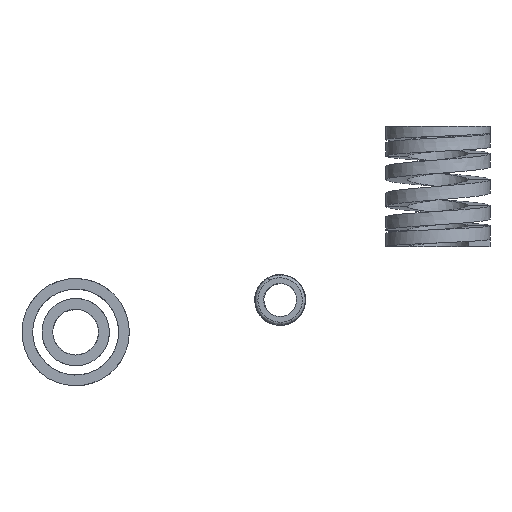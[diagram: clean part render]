
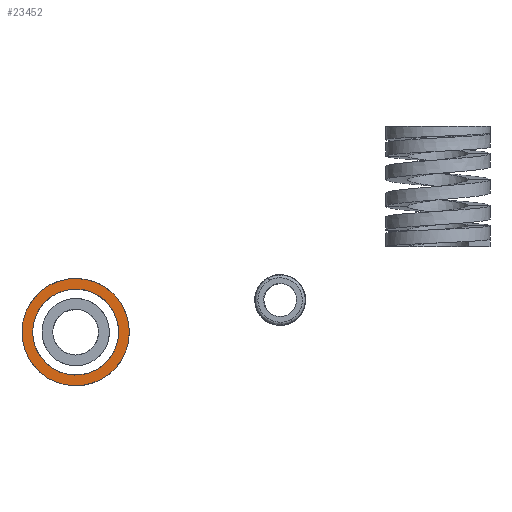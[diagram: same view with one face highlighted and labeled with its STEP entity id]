
A CAD part, left-side view. The second image highlights one B-rep face of the part: STEP entity #23452.
In plain terms, the highlighted planar face has unit normal (-1, 0, 0).
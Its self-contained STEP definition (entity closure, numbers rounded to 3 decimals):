
#2472 = CARTESIAN_POINT ( 'NONE',  ( -30., 84.206, -137.893 ) ) ;
#2550 = CARTESIAN_POINT ( 'NONE',  ( -30., 86.683, -139.246 ) ) ;
#2551 = CARTESIAN_POINT ( 'NONE',  ( -30., 88.759, -141.227 ) ) ;
#2552 = CARTESIAN_POINT ( 'NONE',  ( -30., 90.227, -143.637 ) ) ;
#2553 = CARTESIAN_POINT ( 'NONE',  ( -30., 91.695, -146.046 ) ) ;
#2554 = CARTESIAN_POINT ( 'NONE',  ( -30., 92.503, -148.8 ) ) ;
#2555 = CARTESIAN_POINT ( 'NONE',  ( -30., 92.57, -151.621 ) ) ;
#2556 = CARTESIAN_POINT ( 'NONE',  ( -30., 92.637, -154.442 ) ) ;
#2557 = CARTESIAN_POINT ( 'NONE',  ( -30., 91.959, -157.23 ) ) ;
#2558 = CARTESIAN_POINT ( 'NONE',  ( -30., 90.607, -159.706 ) ) ;
#2559 = CARTESIAN_POINT ( 'NONE',  ( -30., 89.254, -162.183 ) ) ;
#2560 = CARTESIAN_POINT ( 'NONE',  ( -30., 87.273, -164.259 ) ) ;
#2561 = CARTESIAN_POINT ( 'NONE',  ( -30., 84.863, -165.727 ) ) ;
#2562 = CARTESIAN_POINT ( 'NONE',  ( -30., 82.454, -167.195 ) ) ;
#2563 = CARTESIAN_POINT ( 'NONE',  ( -30., 79.7, -168.003 ) ) ;
#2564 = CARTESIAN_POINT ( 'NONE',  ( -30., 76.879, -168.07 ) ) ;
#2565 = CARTESIAN_POINT ( 'NONE',  ( -30., 74.058, -168.137 ) ) ;
#2566 = CARTESIAN_POINT ( 'NONE',  ( -30., 71.27, -167.459 ) ) ;
#2567 = CARTESIAN_POINT ( 'NONE',  ( -30., 68.794, -166.107 ) ) ;
#2568 = CARTESIAN_POINT ( 'NONE',  ( -30., 68.794, -166.107 ) ) ;
#2587 = CARTESIAN_POINT ( 'NONE',  ( -30., 86.124, -134.383 ) ) ;
#2591 = CARTESIAN_POINT ( 'NONE',  ( -30., 66.317, -164.754 ) ) ;
#2592 = CARTESIAN_POINT ( 'NONE',  ( -30., 64.241, -162.773 ) ) ;
#2593 = CARTESIAN_POINT ( 'NONE',  ( -30., 62.773, -160.363 ) ) ;
#2594 = CARTESIAN_POINT ( 'NONE',  ( -30., 61.305, -157.954 ) ) ;
#2595 = CARTESIAN_POINT ( 'NONE',  ( -30., 60.497, -155.2 ) ) ;
#2596 = CARTESIAN_POINT ( 'NONE',  ( -30., 60.43, -152.379 ) ) ;
#2597 = CARTESIAN_POINT ( 'NONE',  ( -30., 60.363, -149.558 ) ) ;
#2598 = CARTESIAN_POINT ( 'NONE',  ( -30., 61.041, -146.77 ) ) ;
#2599 = CARTESIAN_POINT ( 'NONE',  ( -30., 62.393, -144.294 ) ) ;
#2600 = CARTESIAN_POINT ( 'NONE',  ( -30., 63.746, -141.817 ) ) ;
#2601 = CARTESIAN_POINT ( 'NONE',  ( -30., 65.727, -139.741 ) ) ;
#2602 = CARTESIAN_POINT ( 'NONE',  ( -30., 68.137, -138.273 ) ) ;
#2603 = CARTESIAN_POINT ( 'NONE',  ( -30., 70.546, -136.805 ) ) ;
#2604 = CARTESIAN_POINT ( 'NONE',  ( -30., 73.3, -135.997 ) ) ;
#2605 = CARTESIAN_POINT ( 'NONE',  ( -30., 76.121, -135.93 ) ) ;
#2606 = CARTESIAN_POINT ( 'NONE',  ( -30., 78.942, -135.863 ) ) ;
#2607 = CARTESIAN_POINT ( 'NONE',  ( -30., 81.73, -136.541 ) ) ;
#2608 = CARTESIAN_POINT ( 'NONE',  ( -30., 84.206, -137.893 ) ) ;
#2611 = CARTESIAN_POINT ( 'NONE',  ( -30., 83.032, -132.694 ) ) ;
#2612 = CARTESIAN_POINT ( 'NONE',  ( -30., 79.549, -131.848 ) ) ;
#2613 = CARTESIAN_POINT ( 'NONE',  ( -30., 76.026, -131.931 ) ) ;
#2614 = CARTESIAN_POINT ( 'NONE',  ( -30., 72.503, -132.014 ) ) ;
#2615 = CARTESIAN_POINT ( 'NONE',  ( -30., 69.065, -133.023 ) ) ;
#2616 = CARTESIAN_POINT ( 'NONE',  ( -30., 66.055, -134.857 ) ) ;
#2617 = CARTESIAN_POINT ( 'NONE',  ( -30., 63.046, -136.69 ) ) ;
#2618 = CARTESIAN_POINT ( 'NONE',  ( -30., 60.572, -139.283 ) ) ;
#2619 = CARTESIAN_POINT ( 'NONE',  ( -30., 58.883, -142.376 ) ) ;
#2620 = CARTESIAN_POINT ( 'NONE',  ( -30., 57.194, -145.468 ) ) ;
#2621 = CARTESIAN_POINT ( 'NONE',  ( -30., 56.348, -148.951 ) ) ;
#2622 = CARTESIAN_POINT ( 'NONE',  ( -30., 56.431, -152.474 ) ) ;
#2623 = CARTESIAN_POINT ( 'NONE',  ( -30., 56.514, -155.997 ) ) ;
#2624 = CARTESIAN_POINT ( 'NONE',  ( -30., 57.523, -159.435 ) ) ;
#2625 = CARTESIAN_POINT ( 'NONE',  ( -30., 59.357, -162.445 ) ) ;
#2626 = CARTESIAN_POINT ( 'NONE',  ( -30., 61.19, -165.454 ) ) ;
#2627 = CARTESIAN_POINT ( 'NONE',  ( -30., 63.783, -167.928 ) ) ;
#2628 = CARTESIAN_POINT ( 'NONE',  ( -30., 66.876, -169.617 ) ) ;
#2729 = CARTESIAN_POINT ( 'NONE',  ( -30., 66.876, -169.617 ) ) ;
#2778 = CARTESIAN_POINT ( 'NONE',  ( -30., 69.968, -171.306 ) ) ;
#2779 = CARTESIAN_POINT ( 'NONE',  ( -30., 73.451, -172.152 ) ) ;
#2780 = CARTESIAN_POINT ( 'NONE',  ( -30., 76.974, -172.069 ) ) ;
#2781 = CARTESIAN_POINT ( 'NONE',  ( -30., 80.497, -171.986 ) ) ;
#2782 = CARTESIAN_POINT ( 'NONE',  ( -30., 83.935, -170.977 ) ) ;
#2783 = CARTESIAN_POINT ( 'NONE',  ( -30., 86.945, -169.143 ) ) ;
#2784 = CARTESIAN_POINT ( 'NONE',  ( -30., 89.954, -167.31 ) ) ;
#2785 = CARTESIAN_POINT ( 'NONE',  ( -30., 92.428, -164.717 ) ) ;
#2786 = CARTESIAN_POINT ( 'NONE',  ( -30., 94.117, -161.624 ) ) ;
#2787 = CARTESIAN_POINT ( 'NONE',  ( -30., 95.806, -158.532 ) ) ;
#2788 = CARTESIAN_POINT ( 'NONE',  ( -30., 96.652, -155.049 ) ) ;
#2789 = CARTESIAN_POINT ( 'NONE',  ( -30., 96.569, -151.526 ) ) ;
#2790 = CARTESIAN_POINT ( 'NONE',  ( -30., 96.486, -148.003 ) ) ;
#2791 = CARTESIAN_POINT ( 'NONE',  ( -30., 95.477, -144.565 ) ) ;
#2792 = CARTESIAN_POINT ( 'NONE',  ( -30., 93.643, -141.555 ) ) ;
#2793 = CARTESIAN_POINT ( 'NONE',  ( -30., 91.81, -138.546 ) ) ;
#2794 = CARTESIAN_POINT ( 'NONE',  ( -30., 89.217, -136.072 ) ) ;
#2795 = CARTESIAN_POINT ( 'NONE',  ( -30., 86.124, -134.383 ) ) ;
#5847 = CARTESIAN_POINT ( 'NONE',  ( -30., 84.206, -137.893 ) ) ;
#5848 = CARTESIAN_POINT ( 'NONE',  ( -30., 86.124, -134.383 ) ) ;
#5850 = CARTESIAN_POINT ( 'NONE',  ( -30., 68.794, -166.107 ) ) ;
#5852 = CARTESIAN_POINT ( 'NONE',  ( -30., 66.876, -169.617 ) ) ;
#5906 = VERTEX_POINT ( 'NONE', #5852 ) ;
#5908 = VERTEX_POINT ( 'NONE', #5850 ) ;
#5910 = VERTEX_POINT ( 'NONE', #5848 ) ;
#5911 = VERTEX_POINT ( 'NONE', #5847 ) ;
#16581 = ORIENTED_EDGE ( 'NONE', *, *, #23139, .F. ) ;
#16735 = EDGE_LOOP ( 'NONE', ( #16945, #16863 ) ) ;
#16748 = EDGE_LOOP ( 'NONE', ( #16581, #16855 ) ) ;
#16855 = ORIENTED_EDGE ( 'NONE', *, *, #23136, .F. ) ;
#16863 = ORIENTED_EDGE ( 'NONE', *, *, #23141, .F. ) ;
#16945 = ORIENTED_EDGE ( 'NONE', *, *, #23146, .F. ) ;
#18465 = CARTESIAN_POINT ( 'NONE',  ( -30., 96.61, -172.11 ) ) ;
#18466 = PLANE ( 'NONE',  #23239 ) ;
#18474 = DIRECTION ( 'NONE',  ( 1., 0., 0. ) ) ;
#18475 = DIRECTION ( 'NONE',  ( 0., 0., 1. ) ) ;
#21048 = FACE_OUTER_BOUND ( 'NONE', #16735, .T. ) ;
#21058 = FACE_BOUND ( 'NONE', #16748, .T. ) ;
#23136 = EDGE_CURVE ( 'NONE', #5911, #5908, #24436, .T. ) ;
#23139 = EDGE_CURVE ( 'NONE', #5908, #5911, #24438, .T. ) ;
#23141 = EDGE_CURVE ( 'NONE', #5910, #5906, #24439, .T. ) ;
#23146 = EDGE_CURVE ( 'NONE', #5906, #5910, #24443, .T. ) ;
#23239 = AXIS2_PLACEMENT_3D ( 'NONE', #18465, #18474, #18475 ) ;
#23452 = ADVANCED_FACE ( 'NONE', ( #21058, #21048 ), #18466, .F. ) ;
#24436 = B_SPLINE_CURVE_WITH_KNOTS ( 'NONE', 3,
 ( #2472, #2550, #2551, #2552, #2553, #2554, #2555, #2556, #2557, #2558, #2559, #2560, #2561, #2562, #2563, #2564, #2565, #2566, #2567 ),
 .UNSPECIFIED., .F., .F.,
 ( 4, 3, 3, 3, 3, 3, 4 ),
 ( 0., 0.008, 0.017, 0.025, 0.034, 0.042, 0.05 ),
 .UNSPECIFIED. ) ;
#24438 = B_SPLINE_CURVE_WITH_KNOTS ( 'NONE', 3,
 ( #2568, #2591, #2592, #2593, #2594, #2595, #2596, #2597, #2598, #2599, #2600, #2601, #2602, #2603, #2604, #2605, #2606, #2607, #2608 ),
 .UNSPECIFIED., .F., .F.,
 ( 4, 3, 3, 3, 3, 3, 4 ),
 ( 0., 0.008, 0.017, 0.025, 0.034, 0.042, 0.05 ),
 .UNSPECIFIED. ) ;
#24439 = B_SPLINE_CURVE_WITH_KNOTS ( 'NONE', 3,
 ( #2587, #2611, #2612, #2613, #2614, #2615, #2616, #2617, #2618, #2619, #2620, #2621, #2622, #2623, #2624, #2625, #2626, #2627, #2628 ),
 .UNSPECIFIED., .F., .F.,
 ( 4, 3, 3, 3, 3, 3, 4 ),
 ( 0., 0.01, 0.021, 0.031, 0.042, 0.052, 0.063 ),
 .UNSPECIFIED. ) ;
#24443 = B_SPLINE_CURVE_WITH_KNOTS ( 'NONE', 3,
 ( #2729, #2778, #2779, #2780, #2781, #2782, #2783, #2784, #2785, #2786, #2787, #2788, #2789, #2790, #2791, #2792, #2793, #2794, #2795 ),
 .UNSPECIFIED., .F., .F.,
 ( 4, 3, 3, 3, 3, 3, 4 ),
 ( 0., 0.01, 0.021, 0.031, 0.042, 0.052, 0.063 ),
 .UNSPECIFIED. ) ;
